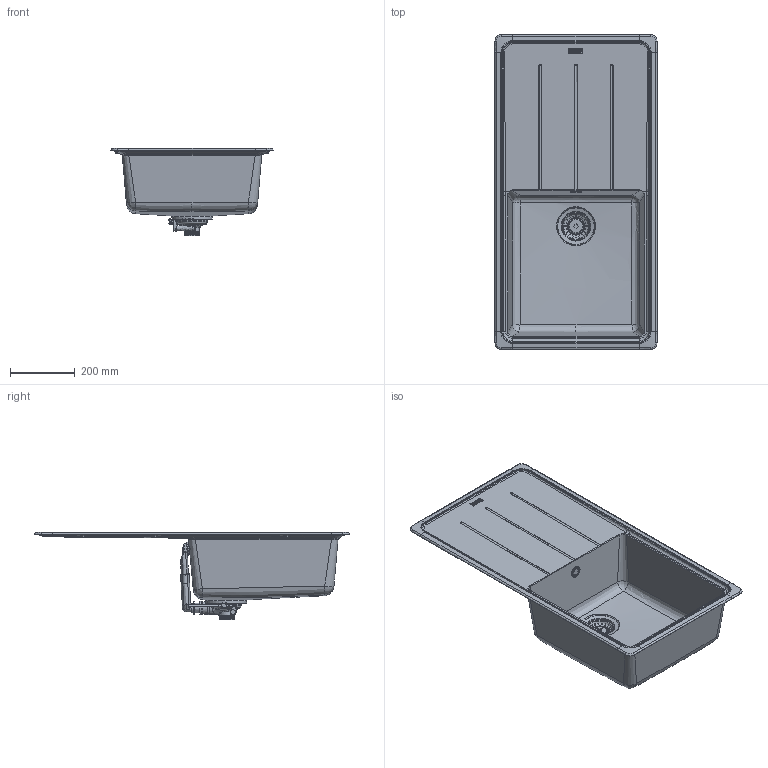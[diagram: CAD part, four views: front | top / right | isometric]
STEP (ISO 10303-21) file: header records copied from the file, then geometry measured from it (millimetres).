
FILE_DESCRIPTION(/* description */ (''),/* implementation_level */ '2;1');
FILE_NAME(/* name */ '3D001_Sinks_Basis_BFG-611-97',/* time_stamp */ '2024-06-26T16:02:10+02:00',/* author */ (''),/* organization */ (''),/* preprocessor_version */ 'ST-DEVELOPER v19.2',/* originating_system */ 'Rhino 8.7',/* authorisation */ '');
FILE_SCHEMA (('CONFIG_CONTROL_DESIGN'));
Products named in the file (3): Document; 20127452_tpm_000; Blocco 05
Bounding box: 499.86 x 969.86 x 270.88 mm (x, y, z)
Volume: 5919873.8 mm3; surface area: 1614482.7 mm2
Topology: 8 solids, 12 shells, 2615 faces, 6905 edges, 4379 vertices
Faces by surface type: plane 1389, bspline 764, cylinder 462
Full cylindrical faces by diameter (mm): 5 x3, 6 x2, 7.5 x3, 8 x1, 14 x2, 23.8 x1, 24 x1, 25 x2, 27.5 x1, 30 x3, 31 x1, 36 x2, 38 x2, 39 x1, 39.5 x1, 42 x3, 45 x1, 48 x1, 83.403 x1, 84 x1, 126 x1
Entity records: 121727 total; most frequent: CARTESIAN_POINT 66905, ORIENTED_EDGE 13711, EDGE_CURVE 6870, DIRECTION 6599, VERTEX_POINT 4380, AXIS2_PLACEMENT_3D 4225, B_SPLINE_CURVE_WITH_KNOTS 3903, EDGE_LOOP 2753
